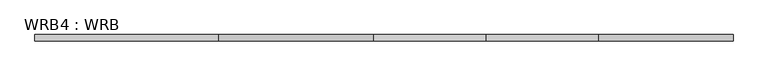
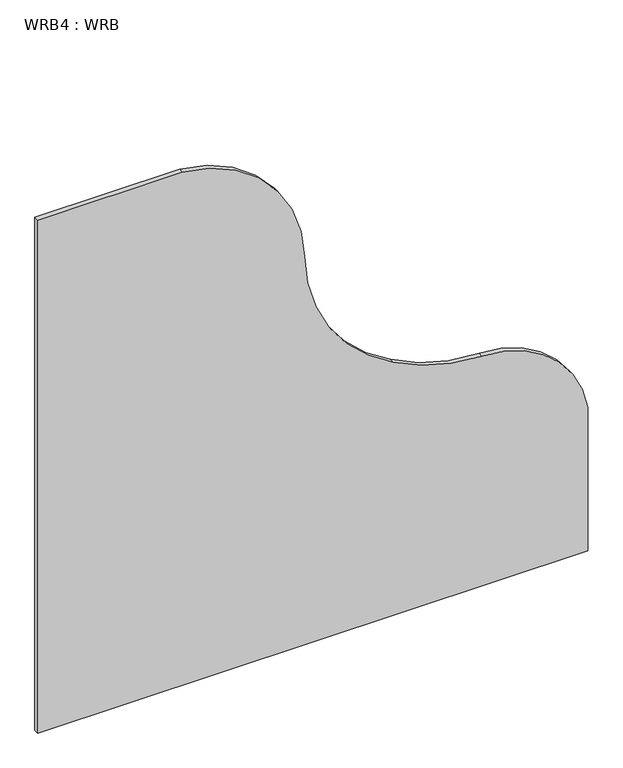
"""IFC4 building model written with IfcOpenShell, lengths in millimetres: proxy geometry, WRB4 : WRB."""

from ifc_helpers import new_model, si_unit, point, frame, frame_2d, origin, place, context, project, spatial, polyline, circle_curve, trimmed, segment, composite_curve, outline, extrude, source, transform, mapped, element, save


def wrb4_wrb_b7f00702(model_context):
    return source(origin(), model_context, "Body", "SweptSolid", [
        extrude(outline(composite_curve([segment(polyline([(-19.05, 5761.647143), (-19.05, 7018.947143), (326.9760682, 7018.947143)]), True, "CONTINUOUS"), segment(trimmed(circle_curve(frame_2d((286.9857554, 6773.6368291)), 248.5485369), [point((326.9760682, 7018.947143))], [point((535.510358, 6777.0860471))], False, "CARTESIAN"), True, "CONTINUOUS"), segment(trimmed(circle_curve(frame_2d((948.5891228, 6782.819076)), 413.1185466), [point((535.510358, 6777.0860471))], [point((591.8706469, 6574.447143))], True, "CARTESIAN"), True, "CONTINUOUS"), segment(trimmed(circle_curve(frame_2d((925.1337293, 6745.2093528)), 374.4649709), [point((591.8706469, 6574.447143))], [point((918.4023164, 6370.804889))], True, "CARTESIAN"), True, "CONTINUOUS"), segment(trimmed(circle_curve(frame_2d((912.871688, 6063.18864)), 307.6659626), [point((918.4023164, 6370.804889))], [point((1219.2, 6091.847143))], False, "CARTESIAN"), True, "CONTINUOUS"), segment(polyline([(1219.2, 6091.847143), (1219.2, 5761.647143), (-19.05, 5761.647143)]), True, "CONTINUOUS")], self_intersect=False)), frame((0.0, 3140.3640644, 0.0), z_axis=(0.0, 1.0, 0.0), x_axis=(0.0, 0.0, 1.0)), (0.0, 0.0, 1.0), 11.1125),
    ])


if __name__ == "__main__":
    model = new_model("IFC4")
    model_context = context("Model", 3, world=origin())
    ifc_project = project(units=[si_unit("LENGTHUNIT", "METRE", prefix="MILLI")], contexts=[model_context])
    site = spatial("IfcSite", under=ifc_project)
    building = spatial("IfcBuilding", under=site)
    placement = place(None, origin())
    wrb4_wrb_shape = wrb4_wrb_b7f00702(model_context)
    element("IfcBuildingElementProxy", 1, Name="WRB4 : WRB", ObjectType="WRB4 : WRB", at=placement, inside=building, context=model_context, shape_type="MappedRepresentation", body=[
        mapped(wrb4_wrb_shape, transform((0.0, 0.0, 0.0), x_axis=(1.0, 0.0, 0.0), y_axis=(0.0, 1.0, 0.0), z_axis=(0.0, 0.0, 1.0))),
    ])
    save(model, "model.ifc")
